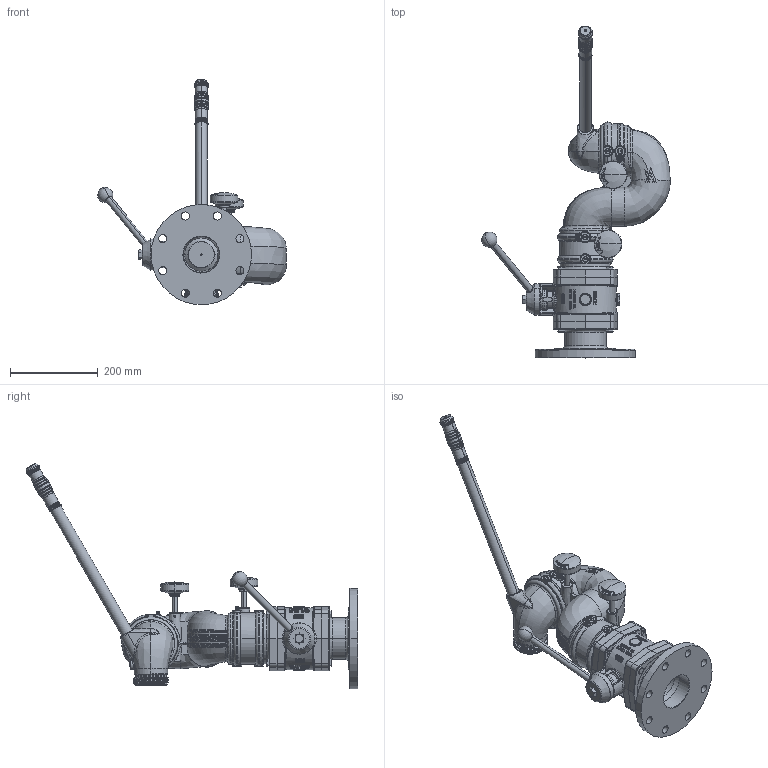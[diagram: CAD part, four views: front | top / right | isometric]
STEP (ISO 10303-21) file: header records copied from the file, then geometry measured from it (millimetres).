
FILE_DESCRIPTION((''),'2;1');
FILE_NAME('4INCH_SW0001','2012-10-25T',('jhabe'),(''),'PRO/ENGINEER BY PARAMETRIC TECHNOLOGY CORPORATION, 2011310','PRO/ENGINEER BY PARAMETRIC TECHNOLOGY CORPORATION, 2011310','');
FILE_SCHEMA(('CONFIG_CONTROL_DESIGN'));
Length unit declared in the file: inch
Products named in the file (1): 4INCH_SW0001
Bounding box: 429.99 x 755.97 x 514.03 mm (x, y, z)
Surface area: 917247.6 mm2 (no closed solid volume)
Topology: 0 solids, 99 shells, 2074 faces, 8098 edges, 5980 vertices
Faces by surface type: plane 658, bspline 504, cylinder 393, cone 243, torus 241, sphere 34, extrusion 1
Entity records: 124890 total; most frequent: CARTESIAN_POINT 65842, ORIENTED_EDGE 12394, DIRECTION 9969, EDGE_CURVE 8080, VERTEX_POINT 5980, AXIS2_PLACEMENT_3D 3891, B_SPLINE_CURVE_WITH_KNOTS 3573, CIRCLE 2321
